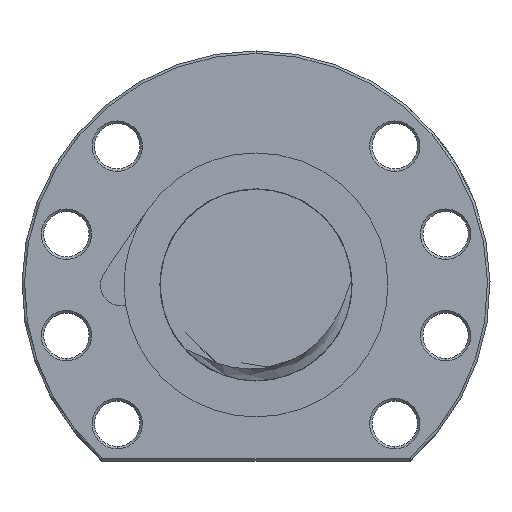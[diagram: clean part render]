
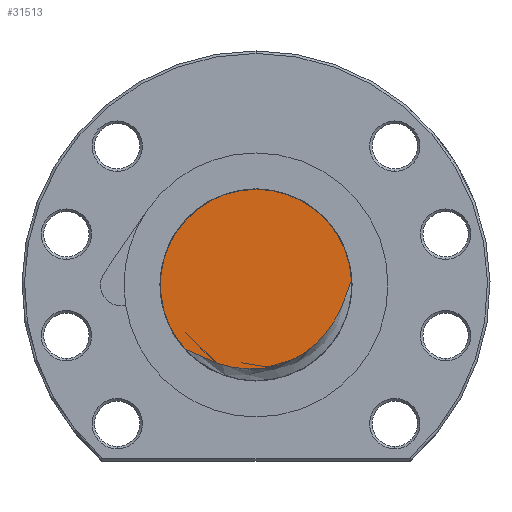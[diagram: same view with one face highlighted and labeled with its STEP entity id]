
A CAD part, left-side view. The second image highlights one B-rep face of the part: STEP entity #31513.
In plain terms, the highlighted planar face has unit normal (-1, 0, 0).
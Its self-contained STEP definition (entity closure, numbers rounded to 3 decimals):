
#9484 = CARTESIAN_POINT ( 'NONE',  ( -293., -18.978, 0.922 ) ) ;
#9485 = DIRECTION ( 'NONE',  ( 0., 1., 0. ) ) ;
#9486 = DIRECTION ( 'NONE',  ( 1., 0., 0. ) ) ;
#9487 = CARTESIAN_POINT ( 'NONE',  ( -293., 0., 0. ) ) ;
#9488 = AXIS2_PLACEMENT_3D ( 'NONE', #9487, #9486, #9485 ) ;
#9493 = CIRCLE ( 'NONE', #9488, 19. ) ;
#10897 = DIRECTION ( 'NONE',  ( 0., 0., -1. ) ) ;
#10899 = DIRECTION ( 'NONE',  ( 1., 0., 0. ) ) ;
#10901 = CARTESIAN_POINT ( 'NONE',  ( -293., 0., 0. ) ) ;
#10902 = AXIS2_PLACEMENT_3D ( 'NONE', #10901, #10899, #10897 ) ;
#10907 = PLANE ( 'NONE',  #10902 ) ;
#10918 = FACE_OUTER_BOUND ( 'NONE', #31514, .T. ) ;
#14057 = CARTESIAN_POINT ( 'NONE',  ( -293., -18.978, 0.922 ) ) ;
#14058 = CARTESIAN_POINT ( 'NONE',  ( -293., -18.873, 0.723 ) ) ;
#14059 = CARTESIAN_POINT ( 'NONE',  ( -293., -18.786, 0.518 ) ) ;
#14060 = CARTESIAN_POINT ( 'NONE',  ( -293., -18.623, 0.102 ) ) ;
#14061 = CARTESIAN_POINT ( 'NONE',  ( -293., -18.547, -0.108 ) ) ;
#14062 = CARTESIAN_POINT ( 'NONE',  ( -293., -18.327, -0.741 ) ) ;
#14063 = CARTESIAN_POINT ( 'NONE',  ( -293., -18.189, -1.166 ) ) ;
#14064 = CARTESIAN_POINT ( 'NONE',  ( -293., -17.76, -2.436 ) ) ;
#14065 = CARTESIAN_POINT ( 'NONE',  ( -293., -17.457, -3.278 ) ) ;
#14066 = CARTESIAN_POINT ( 'NONE',  ( -293., -16.769, -4.921 ) ) ;
#14067 = CARTESIAN_POINT ( 'NONE',  ( -293., -16.386, -5.724 ) ) ;
#14068 = CARTESIAN_POINT ( 'NONE',  ( -293., -15.739, -6.895 ) ) ;
#14069 = CARTESIAN_POINT ( 'NONE',  ( -293., -15.511, -7.281 ) ) ;
#14070 = CARTESIAN_POINT ( 'NONE',  ( -293., -15.034, -8.032 ) ) ;
#14071 = CARTESIAN_POINT ( 'NONE',  ( -293., -14.785, -8.398 ) ) ;
#14072 = CARTESIAN_POINT ( 'NONE',  ( -293., -14.003, -9.471 ) ) ;
#14073 = CARTESIAN_POINT ( 'NONE',  ( -293., -13.438, -10.15 ) ) ;
#14074 = CARTESIAN_POINT ( 'NONE',  ( -293., -12.522, -11.112 ) ) ;
#14075 = CARTESIAN_POINT ( 'NONE',  ( -293., -12.205, -11.424 ) ) ;
#14076 = CARTESIAN_POINT ( 'NONE',  ( -293., -11.547, -12.026 ) ) ;
#14077 = CARTESIAN_POINT ( 'NONE',  ( -293., -11.206, -12.317 ) ) ;
#14078 = CARTESIAN_POINT ( 'NONE',  ( -293., -9.468, -13.699 ) ) ;
#14079 = CARTESIAN_POINT ( 'NONE',  ( -293., -7.949, -14.597 ) ) ;
#14080 = CARTESIAN_POINT ( 'NONE',  ( -293., -5.469, -15.619 ) ) ;
#14081 = CARTESIAN_POINT ( 'NONE',  ( -293., -4.626, -15.898 ) ) ;
#14082 = CARTESIAN_POINT ( 'NONE',  ( -293., -2.92, -16.334 ) ) ;
#14083 = CARTESIAN_POINT ( 'NONE',  ( -293., -2.055, -16.491 ) ) ;
#14084 = CARTESIAN_POINT ( 'NONE',  ( -293., -0.74, -16.637 ) ) ;
#14085 = CARTESIAN_POINT ( 'NONE',  ( -293., -0.299, -16.671 ) ) ;
#14086 = CARTESIAN_POINT ( 'NONE',  ( -293., 0.59, -16.708 ) ) ;
#14087 = CARTESIAN_POINT ( 'NONE',  ( -293., 1.039, -16.712 ) ) ;
#14088 = CARTESIAN_POINT ( 'NONE',  ( -293., 2.373, -16.677 ) ) ;
#14089 = CARTESIAN_POINT ( 'NONE',  ( -293., 3.252, -16.594 ) ) ;
#14090 = CARTESIAN_POINT ( 'NONE',  ( -293., 4.99, -16.316 ) ) ;
#14091 = CARTESIAN_POINT ( 'NONE',  ( -293., 5.849, -16.122 ) ) ;
#14092 = CARTESIAN_POINT ( 'NONE',  ( -293., 7.55, -15.631 ) ) ;
#14093 = CARTESIAN_POINT ( 'NONE',  ( -293., 8.394, -15.332 ) ) ;
#14094 = CARTESIAN_POINT ( 'NONE',  ( -293., 10.041, -14.655 ) ) ;
#14095 = CARTESIAN_POINT ( 'NONE',  ( -293., 10.847, -14.275 ) ) ;
#14096 = CARTESIAN_POINT ( 'NONE',  ( -293., 12.044, -13.682 ) ) ;
#14097 = CARTESIAN_POINT ( 'NONE',  ( -293., 12.442, -13.48 ) ) ;
#14098 = CARTESIAN_POINT ( 'NONE',  ( -293., 13.043, -13.189 ) ) ;
#14099 = CARTESIAN_POINT ( 'NONE',  ( -293., 13.245, -13.094 ) ) ;
#14100 = CARTESIAN_POINT ( 'NONE',  ( -293., 13.653, -12.916 ) ) ;
#14101 = CARTESIAN_POINT ( 'NONE',  ( -293., 13.859, -12.833 ) ) ;
#14102 = CARTESIAN_POINT ( 'NONE',  ( -293., 14.071, -12.767 ) ) ;
#14103 = B_SPLINE_CURVE_WITH_KNOTS ( 'NONE', 3,
 ( #14102, #14101, #14100, #14099, #14098, #14097, #14096, #14095, #14094, #14093, #14092, #14091, #14090, #14089, #14088, #14087, #14086, #14085, #14084, #14083, #14082, #14081, #14080, #14079, #14078, #14077, #14076, #14075, #14074, #14073, #14072, #14071, #14070, #14069, #14068, #14067, #14066, #14065, #14064, #14063, #14062, #14061, #14060, #14059, #14058, #14057 ),
 .UNSPECIFIED., .F., .F.,
 ( 4, 2, 2, 2, 2, 2, 2, 2, 2, 2, 2, 2, 2, 2, 2, 2, 2, 2, 2, 2, 2, 2, 4 ),
 ( 0.009, 0.01, 0.01, 0.012, 0.014, 0.017, 0.02, 0.022, 0.024, 0.025, 0.027, 0.03, 0.035, 0.037, 0.038, 0.041, 0.042, 0.043, 0.046, 0.049, 0.05, 0.05, 0.051 ),
 .UNSPECIFIED. ) ;
#23434 = CARTESIAN_POINT ( 'NONE',  ( -293., 0., 19. ) ) ;
#23437 = CARTESIAN_POINT ( 'NONE',  ( -293., 14.071, -12.767 ) ) ;
#23439 = DIRECTION ( 'NONE',  ( 0., 1., 0. ) ) ;
#23440 = DIRECTION ( 'NONE',  ( 1., 0., 0. ) ) ;
#23442 = AXIS2_PLACEMENT_3D ( 'NONE', #23448, #23440, #23439 ) ;
#23443 = CIRCLE ( 'NONE', #23442, 19. ) ;
#23448 = CARTESIAN_POINT ( 'NONE',  ( -293., 0., 0. ) ) ;
#30703 = EDGE_CURVE ( 'NONE', #30704, #30705, #23443, .T. ) ;
#30704 = VERTEX_POINT ( 'NONE', #23437 ) ;
#30705 = VERTEX_POINT ( 'NONE', #23434 ) ;
#30953 = EDGE_CURVE ( 'NONE', #30705, #30954, #9493, .T. ) ;
#30954 = VERTEX_POINT ( 'NONE', #9484 ) ;
#31393 = ORIENTED_EDGE ( 'NONE', *, *, #31394, .T. ) ;
#31394 = EDGE_CURVE ( 'NONE', #30704, #30954, #14103, .T. ) ;
#31395 = ORIENTED_EDGE ( 'NONE', *, *, #30953, .F. ) ;
#31513 = ADVANCED_FACE ( 'NONE', ( #10918 ), #10907, .F. ) ;
#31514 = EDGE_LOOP ( 'NONE', ( #31515, #31393, #31395 ) ) ;
#31515 = ORIENTED_EDGE ( 'NONE', *, *, #30703, .F. ) ;
